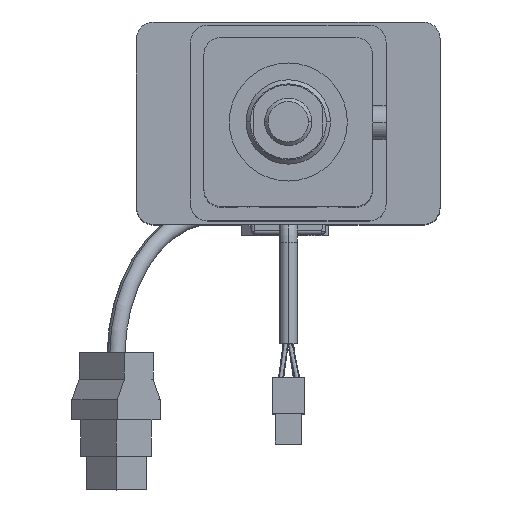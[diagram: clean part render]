
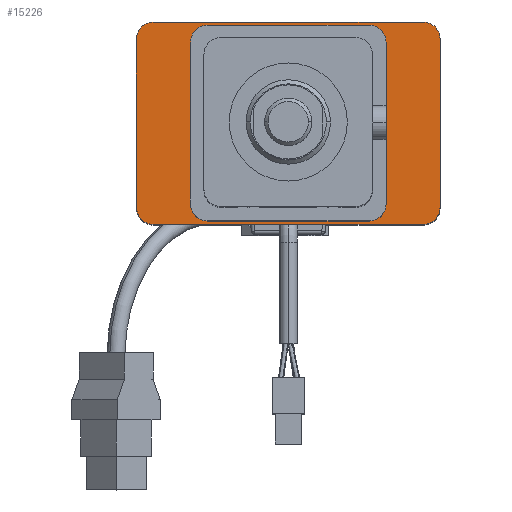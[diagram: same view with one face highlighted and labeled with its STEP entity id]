
A CAD part, top view. The second image highlights one B-rep face of the part: STEP entity #15226.
In plain terms, the highlighted planar face has unit normal (0, 0, 1).
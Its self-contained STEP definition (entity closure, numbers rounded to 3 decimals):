
#208 = CARTESIAN_POINT ( 'NONE',  ( 45., 30., -20. ) ) ;
#452 = CARTESIAN_POINT ( 'NONE',  ( -40., 30., -20. ) ) ;
#517 = ORIENTED_EDGE ( 'NONE', *, *, #2897, .F. ) ;
#1023 = CARTESIAN_POINT ( 'NONE',  ( -45., 30., -20. ) ) ;
#1093 = CIRCLE ( 'NONE', #22867, 5. ) ;
#1251 = CARTESIAN_POINT ( 'NONE',  ( 29., -24., -20. ) ) ;
#1932 = CARTESIAN_POINT ( 'NONE',  ( -29., -24., -20. ) ) ;
#1941 = EDGE_CURVE ( 'NONE', #3926, #22672, #18129, .T. ) ;
#2105 = VERTEX_POINT ( 'NONE', #12005 ) ;
#2798 = ORIENTED_EDGE ( 'NONE', *, *, #21003, .T. ) ;
#2897 = EDGE_CURVE ( 'NONE', #20278, #5321, #5170, .T. ) ;
#3015 = VERTEX_POINT ( 'NONE', #14774 ) ;
#3396 = LINE ( 'NONE', #14140, #5094 ) ;
#3426 = VERTEX_POINT ( 'NONE', #9009 ) ;
#3464 = DIRECTION ( 'NONE',  ( 0., 1., 0. ) ) ;
#3595 = CARTESIAN_POINT ( 'NONE',  ( -40., -30., -20. ) ) ;
#3926 = VERTEX_POINT ( 'NONE', #16321 ) ;
#4055 = EDGE_CURVE ( 'NONE', #16429, #5321, #1093, .T. ) ;
#4162 = CARTESIAN_POINT ( 'NONE',  ( -40., -25., -20. ) ) ;
#4264 = VECTOR ( 'NONE', #16566, 1000. ) ;
#4459 = CARTESIAN_POINT ( 'NONE',  ( -24., 29., -20. ) ) ;
#4503 = CIRCLE ( 'NONE', #8445, 5. ) ;
#4906 = DIRECTION ( 'NONE',  ( 0., 0., -1. ) ) ;
#5094 = VECTOR ( 'NONE', #3464, 1000. ) ;
#5170 = LINE ( 'NONE', #5365, #6596 ) ;
#5321 = VERTEX_POINT ( 'NONE', #11764 ) ;
#5365 = CARTESIAN_POINT ( 'NONE',  ( 45., 30., -20. ) ) ;
#5497 = DIRECTION ( 'NONE',  ( 1., 0., 0. ) ) ;
#5503 = VERTEX_POINT ( 'NONE', #12070 ) ;
#6026 = DIRECTION ( 'NONE',  ( 0., 0., 1. ) ) ;
#6100 = ORIENTED_EDGE ( 'NONE', *, *, #15822, .T. ) ;
#6307 = CARTESIAN_POINT ( 'NONE',  ( 24., 24., -20. ) ) ;
#6395 = DIRECTION ( 'NONE',  ( -1., 0., 0. ) ) ;
#6414 = CARTESIAN_POINT ( 'NONE',  ( -24., -29., -20. ) ) ;
#6497 = CIRCLE ( 'NONE', #15357, 5. ) ;
#6596 = VECTOR ( 'NONE', #10750, 1000. ) ;
#6626 = AXIS2_PLACEMENT_3D ( 'NONE', #4162, #7772, #9629 ) ;
#6885 = CARTESIAN_POINT ( 'NONE',  ( 24., 29., -20. ) ) ;
#6908 = EDGE_CURVE ( 'NONE', #9730, #3426, #15355, .T. ) ;
#7005 = CARTESIAN_POINT ( 'NONE',  ( 29., 24., -20. ) ) ;
#7591 = CARTESIAN_POINT ( 'NONE',  ( -24., -24., -20. ) ) ;
#7623 = LINE ( 'NONE', #19107, #13223 ) ;
#7751 = DIRECTION ( 'NONE',  ( -1., 0., 0. ) ) ;
#7772 = DIRECTION ( 'NONE',  ( 0., 0., 1. ) ) ;
#7847 = AXIS2_PLACEMENT_3D ( 'NONE', #11965, #4906, #8378 ) ;
#8065 = DIRECTION ( 'NONE',  ( -1., 0., 0. ) ) ;
#8112 = DIRECTION ( 'NONE',  ( 1., 0., 0. ) ) ;
#8174 = ORIENTED_EDGE ( 'NONE', *, *, #19914, .F. ) ;
#8178 = ORIENTED_EDGE ( 'NONE', *, *, #18204, .T. ) ;
#8350 = CIRCLE ( 'NONE', #10436, 5. ) ;
#8378 = DIRECTION ( 'NONE',  ( -1., 0., 0. ) ) ;
#8445 = AXIS2_PLACEMENT_3D ( 'NONE', #9175, #12868, #5497 ) ;
#8789 = ORIENTED_EDGE ( 'NONE', *, *, #20083, .T. ) ;
#9009 = CARTESIAN_POINT ( 'NONE',  ( 29., -24., -20. ) ) ;
#9175 = CARTESIAN_POINT ( 'NONE',  ( -24., 24., -20. ) ) ;
#9233 = ORIENTED_EDGE ( 'NONE', *, *, #17188, .T. ) ;
#9391 = VECTOR ( 'NONE', #17064, 1000. ) ;
#9629 = DIRECTION ( 'NONE',  ( -1., 0., 0. ) ) ;
#9730 = VERTEX_POINT ( 'NONE', #7005 ) ;
#9773 = VECTOR ( 'NONE', #21155, 1000. ) ;
#9988 = VECTOR ( 'NONE', #10047, 1000. ) ;
#10047 = DIRECTION ( 'NONE',  ( 0., -1., 0. ) ) ;
#10089 = VERTEX_POINT ( 'NONE', #21907 ) ;
#10392 = CIRCLE ( 'NONE', #6626, 5. ) ;
#10436 = AXIS2_PLACEMENT_3D ( 'NONE', #19022, #20893, #15503 ) ;
#10749 = FACE_OUTER_BOUND ( 'NONE', #18544, .T. ) ;
#10750 = DIRECTION ( 'NONE',  ( 1., 0., 0. ) ) ;
#11053 = CARTESIAN_POINT ( 'NONE',  ( -29., 24., -20. ) ) ;
#11171 = DIRECTION ( 'NONE',  ( 1., 0., 0. ) ) ;
#11230 = CARTESIAN_POINT ( 'NONE',  ( 24., -29., -20. ) ) ;
#11319 = FACE_BOUND ( 'NONE', #15372, .T. ) ;
#11566 = DIRECTION ( 'NONE',  ( 0., 0., 1. ) ) ;
#11764 = CARTESIAN_POINT ( 'NONE',  ( 40., 30., -20. ) ) ;
#11923 = EDGE_CURVE ( 'NONE', #15225, #3015, #13727, .T. ) ;
#11965 = CARTESIAN_POINT ( 'NONE',  ( 0., 0., -20. ) ) ;
#12005 = CARTESIAN_POINT ( 'NONE',  ( 45., -25., -20. ) ) ;
#12054 = VECTOR ( 'NONE', #8065, 1000. ) ;
#12070 = CARTESIAN_POINT ( 'NONE',  ( 40., -30., -20. ) ) ;
#12335 = ORIENTED_EDGE ( 'NONE', *, *, #1941, .F. ) ;
#12482 = AXIS2_PLACEMENT_3D ( 'NONE', #6307, #18861, #8112 ) ;
#12583 = ORIENTED_EDGE ( 'NONE', *, *, #17545, .F. ) ;
#12868 = DIRECTION ( 'NONE',  ( 0., 0., -1. ) ) ;
#12964 = AXIS2_PLACEMENT_3D ( 'NONE', #18661, #6026, #16699 ) ;
#13223 = VECTOR ( 'NONE', #6395, 1000. ) ;
#13274 = VERTEX_POINT ( 'NONE', #1932 ) ;
#13484 = CIRCLE ( 'NONE', #12964, 5. ) ;
#13612 = CARTESIAN_POINT ( 'NONE',  ( -40., 25., -20. ) ) ;
#13727 = LINE ( 'NONE', #6885, #9773 ) ;
#13940 = ORIENTED_EDGE ( 'NONE', *, *, #6908, .T. ) ;
#14140 = CARTESIAN_POINT ( 'NONE',  ( -29., 24., -20. ) ) ;
#14774 = CARTESIAN_POINT ( 'NONE',  ( 24., 29., -20. ) ) ;
#14985 = ORIENTED_EDGE ( 'NONE', *, *, #23219, .T. ) ;
#15225 = VERTEX_POINT ( 'NONE', #4459 ) ;
#15226 = ADVANCED_FACE ( 'NONE', ( #11319, #10749 ), #15283, .F. ) ;
#15283 = PLANE ( 'NONE',  #7847 ) ;
#15355 = LINE ( 'NONE', #1251, #9988 ) ;
#15357 = AXIS2_PLACEMENT_3D ( 'NONE', #7591, #20136, #11171 ) ;
#15372 = EDGE_LOOP ( 'NONE', ( #8789, #22629, #21860, #9233, #13940, #14985, #2798, #8178 ) ) ;
#15417 = DIRECTION ( 'NONE',  ( -1., 0., 0. ) ) ;
#15503 = DIRECTION ( 'NONE',  ( 1., 0., 0. ) ) ;
#15822 = EDGE_CURVE ( 'NONE', #20278, #22672, #17789, .T. ) ;
#16321 = CARTESIAN_POINT ( 'NONE',  ( -45., -25., -20. ) ) ;
#16429 = VERTEX_POINT ( 'NONE', #16650 ) ;
#16566 = DIRECTION ( 'NONE',  ( 0., -1., 0. ) ) ;
#16650 = CARTESIAN_POINT ( 'NONE',  ( 45., 25., -20. ) ) ;
#16699 = DIRECTION ( 'NONE',  ( -1., 0., 0. ) ) ;
#16865 = LINE ( 'NONE', #6414, #12054 ) ;
#17027 = AXIS2_PLACEMENT_3D ( 'NONE', #13612, #19019, #15417 ) ;
#17064 = DIRECTION ( 'NONE',  ( 0., 1., 0. ) ) ;
#17188 = EDGE_CURVE ( 'NONE', #3015, #9730, #17202, .T. ) ;
#17202 = CIRCLE ( 'NONE', #12482, 5. ) ;
#17545 = EDGE_CURVE ( 'NONE', #16429, #2105, #20825, .T. ) ;
#17612 = EDGE_CURVE ( 'NONE', #3926, #22573, #10392, .T. ) ;
#17789 = CIRCLE ( 'NONE', #17027, 5. ) ;
#18129 = LINE ( 'NONE', #1023, #9391 ) ;
#18204 = EDGE_CURVE ( 'NONE', #10089, #13274, #6497, .T. ) ;
#18336 = ORIENTED_EDGE ( 'NONE', *, *, #20897, .T. ) ;
#18360 = CARTESIAN_POINT ( 'NONE',  ( -45., 25., -20. ) ) ;
#18544 = EDGE_LOOP ( 'NONE', ( #12583, #22829, #517, #6100, #12335, #19037, #8174, #18336 ) ) ;
#18661 = CARTESIAN_POINT ( 'NONE',  ( 40., -25., -20. ) ) ;
#18861 = DIRECTION ( 'NONE',  ( 0., 0., -1. ) ) ;
#18990 = EDGE_CURVE ( 'NONE', #21531, #15225, #4503, .T. ) ;
#19019 = DIRECTION ( 'NONE',  ( 0., 0., 1. ) ) ;
#19022 = CARTESIAN_POINT ( 'NONE',  ( 24., -24., -20. ) ) ;
#19037 = ORIENTED_EDGE ( 'NONE', *, *, #17612, .T. ) ;
#19107 = CARTESIAN_POINT ( 'NONE',  ( 45., -30., -20. ) ) ;
#19914 = EDGE_CURVE ( 'NONE', #5503, #22573, #7623, .T. ) ;
#20083 = EDGE_CURVE ( 'NONE', #13274, #21531, #3396, .T. ) ;
#20136 = DIRECTION ( 'NONE',  ( 0., 0., -1. ) ) ;
#20278 = VERTEX_POINT ( 'NONE', #452 ) ;
#20825 = LINE ( 'NONE', #208, #4264 ) ;
#20893 = DIRECTION ( 'NONE',  ( 0., 0., -1. ) ) ;
#20897 = EDGE_CURVE ( 'NONE', #5503, #2105, #13484, .T. ) ;
#21003 = EDGE_CURVE ( 'NONE', #21408, #10089, #16865, .T. ) ;
#21155 = DIRECTION ( 'NONE',  ( 1., 0., 0. ) ) ;
#21408 = VERTEX_POINT ( 'NONE', #11230 ) ;
#21531 = VERTEX_POINT ( 'NONE', #11053 ) ;
#21860 = ORIENTED_EDGE ( 'NONE', *, *, #11923, .T. ) ;
#21907 = CARTESIAN_POINT ( 'NONE',  ( -24., -29., -20. ) ) ;
#22355 = CARTESIAN_POINT ( 'NONE',  ( 40., 25., -20. ) ) ;
#22573 = VERTEX_POINT ( 'NONE', #3595 ) ;
#22629 = ORIENTED_EDGE ( 'NONE', *, *, #18990, .T. ) ;
#22672 = VERTEX_POINT ( 'NONE', #18360 ) ;
#22829 = ORIENTED_EDGE ( 'NONE', *, *, #4055, .T. ) ;
#22867 = AXIS2_PLACEMENT_3D ( 'NONE', #22355, #11566, #7751 ) ;
#23219 = EDGE_CURVE ( 'NONE', #3426, #21408, #8350, .T. ) ;
